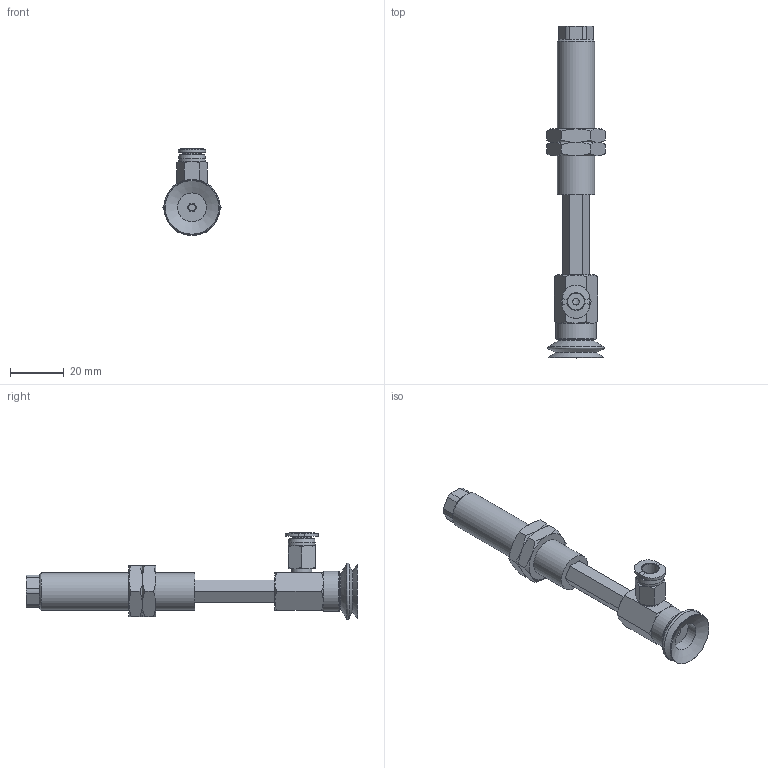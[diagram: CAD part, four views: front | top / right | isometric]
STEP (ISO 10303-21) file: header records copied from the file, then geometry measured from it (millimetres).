
FILE_DESCRIPTION(('STEP AP203'),'1');
FILE_NAME('-O.stp','2025-04-24T07:05:35',(' '),(' '),'Spatial InterOp 3D',' ',' ');
FILE_SCHEMA(('CONFIG_CONTROL_DESIGN'));
Length unit declared in the file: millimetre
Products named in the file (8): BNABPJYH-20-30-※-O; Adapter-20-NAPJ; CONNECTOR_H-20-30; NAPJH-20-30-NUT; NAPJTH-20-30-FBODY; NAPJTH-20-30-MBODY; BPJG-20-※; PC-C_06-M5
Assembly tree (8 placements, depth 2):
  BNABPJYH-20-30-※-O
    Adapter-20-NAPJ
    CONNECTOR_H-20-30
    NAPJH-20-30-NUT  x2
    NAPJTH-20-30-FBODY
    NAPJTH-20-30-MBODY
    BPJG-20-※
    PC-C_06-M5
Bounding box: 21.94 x 124 x 32.48 mm (x, y, z)
Volume: 17271.6 mm3; surface area: 14765.3 mm2
Topology: 7 solids, 10 shells, 204 faces, 442 edges, 271 vertices
Faces by surface type: plane 89, cone 70, cylinder 29, torus 9, bspline 4, revolution 3
Full cylindrical faces by diameter (mm): 2.5 x1, 3 x1, 4 x2, 4.134 x3, 4.6 x1, 5 x3, 7 x1, 7.4 x1, 8.2 x1, 10 x1, 10.8 x1, 11 x1, 13.188 x2, 14 x1, 15 x1
Entity records: 5494 total; most frequent: CARTESIAN_POINT 1475, DIRECTION 747, ORIENTED_EDGE 668, EDGE_CURVE 336, AXIS2_PLACEMENT_3D 308, EDGE_LOOP 258, VERTEX_POINT 234, FACE_OUTER_BOUND 150
